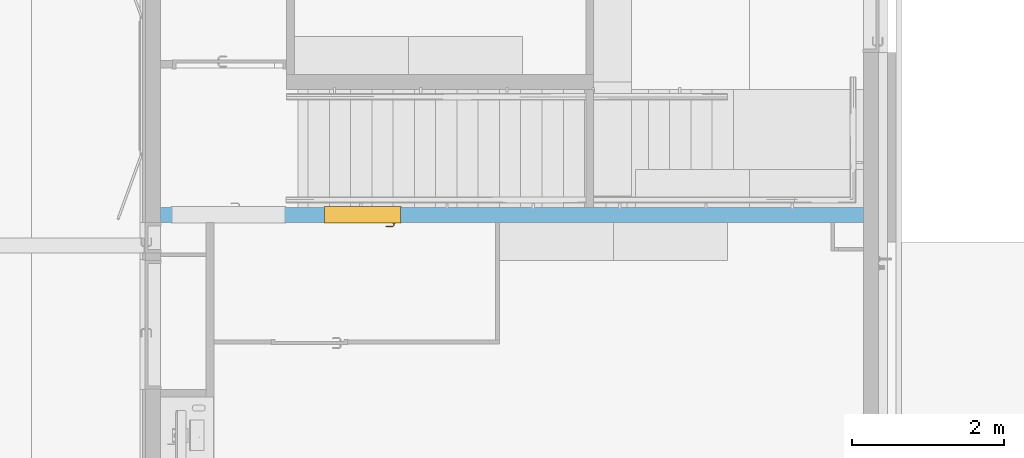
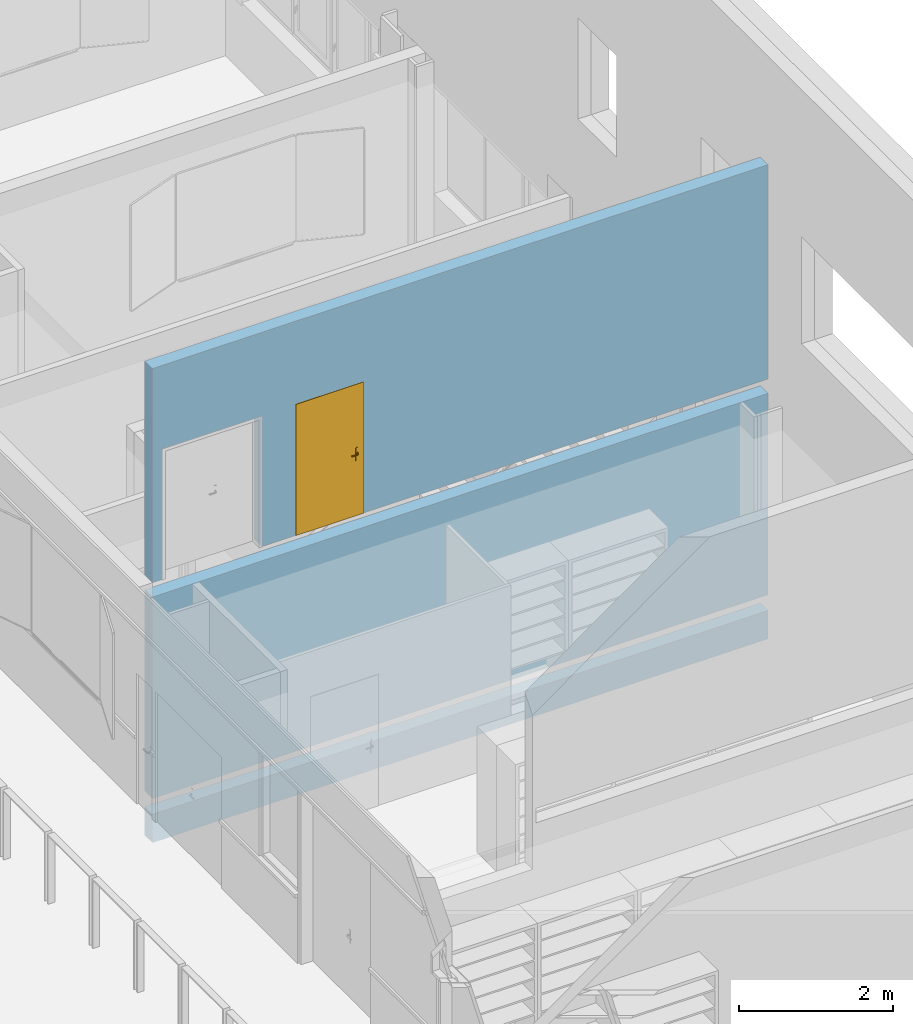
"""IFC2X3 building model written with IfcOpenShell, lengths in centimetres."""

from ifc_helpers import new_model, entity, si_unit, converted_unit, derived_unit, direction, frame, frame_2d, origin, place, context, subcontext, project, spatial, rectangle, extrude, faceted_brep, source, transform, mapped, material, material_list, layer, layer_set, type_object, type_shapes, element, fill, save


model = new_model("IFC2X3")

# Units and contexts
model_context = context("Model", 3, precision=0.001, world=origin(), true_north=direction((6.12303176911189e-17, 1.0)))
body_context = subcontext(model_context, "Body", "Model", "MODEL_VIEW")
ifc_project = project(units=[si_unit("LENGTHUNIT", "METRE", prefix="CENTI"), si_unit("AREAUNIT", "SQUARE_METRE"), si_unit("VOLUMEUNIT", "CUBIC_METRE"), converted_unit("PLANEANGLEUNIT", "DEGREE", entity("IfcRatioMeasure", 0.0174532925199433), si_unit("PLANEANGLEUNIT", "RADIAN"), dimensions=[0, 0, 0, 0, 0, 0, 0]), si_unit("MASSUNIT", "GRAM", prefix="KILO"), si_unit("TIMEUNIT", "SECOND"), si_unit("FREQUENCYUNIT", "HERTZ"), si_unit("THERMODYNAMICTEMPERATUREUNIT", "DEGREE_CELSIUS"), derived_unit("THERMALTRANSMITTANCEUNIT", [(si_unit("MASSUNIT", "GRAM", prefix="KILO"), 1), (si_unit("THERMODYNAMICTEMPERATUREUNIT", "KELVIN"), -1), (si_unit("TIMEUNIT", "SECOND"), -3)]), derived_unit("VOLUMETRICFLOWRATEUNIT", [(si_unit("LENGTHUNIT", "METRE"), 3), (si_unit("TIMEUNIT", "SECOND"), -1)]), si_unit("ELECTRICCURRENTUNIT", "AMPERE"), si_unit("ELECTRICVOLTAGEUNIT", "VOLT"), si_unit("POWERUNIT", "WATT"), si_unit("FORCEUNIT", "NEWTON", prefix="KILO"), si_unit("ILLUMINANCEUNIT", "LUX"), si_unit("LUMINOUSFLUXUNIT", "LUMEN"), si_unit("LUMINOUSINTENSITYUNIT", "CANDELA"), derived_unit("USERDEFINED", [(si_unit("MASSUNIT", "GRAM", prefix="KILO"), -1), (si_unit("LENGTHUNIT", "METRE"), -2), (si_unit("TIMEUNIT", "SECOND"), 3), (si_unit("LUMINOUSFLUXUNIT", "LUMEN"), 1)]), derived_unit("LINEARVELOCITYUNIT", [(si_unit("LENGTHUNIT", "METRE"), 1), (si_unit("TIMEUNIT", "SECOND"), -1)]), si_unit("PRESSUREUNIT", "PASCAL"), derived_unit("USERDEFINED", [(si_unit("LENGTHUNIT", "METRE"), -2), (si_unit("MASSUNIT", "GRAM", prefix="KILO"), 1), (si_unit("TIMEUNIT", "SECOND"), -2)])], contexts=[model_context])

# Site, building, storey
site_placement = place(None, frame((8.62739174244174, -249.285249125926, 0.0)))
site = spatial("IfcSite", under=ifc_project, at=site_placement, Name="Default", CompositionType="ELEMENT")
building_placement = place(site_placement, origin())
building = spatial("IfcBuilding", under=site, at=building_placement, CompositionType="ELEMENT")
storey_1_placement = place(building_placement, origin())
storey_1 = spatial("IfcBuildingStorey", under=building, at=storey_1_placement, Name="RDC", CompositionType="ELEMENT", Elevation=-8.82465566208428e-11)

# Wall, openings
ifc_material_1 = material(Name="Béton, coulé sur place, gris")
ifc_layer = layer(ifc_material_1, 20.0)
ifc_layer_set = layer_set([ifc_layer], Name="Mur de base:BET 20")
wall_type = type_object("IfcWallType", Name="Mur de base:BET 20", PredefinedType="STANDARD", material=ifc_layer_set)
wall_placement = place(storey_1_placement, frame((3053.9048277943, 4692.98020813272, -70.0)))
wall = element("IfcWall", 1, at=wall_placement, inside=storey_1, type_object=wall_type, Name="Mur de base:BET 20", ObjectType="Mur de base:BET 20", context=body_context, shape_type="Brep", body=[
    faceted_brep([(0.0, -10.0, 0.0), (925.0, -10.0, 0.0), (925.0, -10.0, 45.0), (0.0, -10.0, 45.0), (925.0, 10.0, 0.0), (0.0, 10.0, 0.0), (0.0, 10.0, 45.0), (925.0, 10.0, 45.0)], [[[0, 1, 2, 3]], [[4, 5, 6, 7]], [[1, 0, 5, 4]], [[1, 4, 7, 2]], [[5, 0, 3, 6]], [[3, 2, 7, 6]]]),
    faceted_brep([(2.05294529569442e-09, -10.0, 753.0), (166.0, -10.0, 753.0), (176.0, -10.0, 753.0), (925.0, -10.0, 753.0), (925.0, 10.0, 753.0), (176.0, 10.0, 753.0), (166.0, 10.0, 753.0), (2.40460246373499e-09, 10.0, 753.0), (2.40460246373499e-09, 10.0, 413.0), (2.05294529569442e-09, -10.0, 413.0), (2.05294529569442e-09, -10.0, 691.0), (215.999976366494, -10.0, 620.500000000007), (215.999976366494, -10.0, 413.0), (215.999976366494, 10.0, 413.0), (215.999976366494, 10.0, 620.500000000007), (315.999976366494, -10.0, 620.500000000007), (315.999976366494, 10.0, 620.500000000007), (315.999976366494, -10.0, 413.0), (315.999976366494, 10.0, 413.0), (163.999988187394, -10.0, 620.0), (163.999988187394, 10.0, 620.0), (163.999988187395, 10.0, 413.0), (163.999988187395, -10.0, 413.0), (14.9999881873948, -10.0, 620.0), (14.9999881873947, 10.0, 620.0), (14.9999881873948, -10.0, 413.0), (14.9999881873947, 10.0, 413.0), (176.0, -10.0, 413.0), (166.0, -10.0, 413.0), (166.0, 10.0, 413.0), (176.0, 10.0, 413.0), (925.0, -10.0, 413.0), (326.999976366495, 10.0, 413.0), (925.0, 10.0, 413.0), (925.0, 10.0, 521.0), (925.0, 10.0, 691.0)], [[[0, 1, 2, 3, 4, 5, 6, 7]], [[0, 7, 8, 9, 10]], [[11, 12, 13, 14]], [[15, 11, 14, 16]], [[17, 15, 16, 18]], [[19, 20, 21, 22]], [[20, 19, 23, 24]], [[24, 23, 25, 26]], [[25, 9, 8, 26]], [[12, 27, 28, 22, 21, 29, 30, 13]], [[31, 17, 18, 32, 33]], [[4, 3, 31, 33, 34, 35]], [[7, 6, 5, 4, 35, 34, 33, 32, 18, 16, 14, 13, 30, 29, 21, 20, 24, 26, 8]], [[3, 2, 1, 0, 10, 9, 25, 23, 19, 22, 28, 27, 12, 11, 15, 17, 31]]]),
    faceted_brep([(925.0, -10.0, 70.0), (0.0, -10.0, 70.0), (0.0, 10.0, 70.0), (925.0, 10.0, 70.0), (0.0, -10.0, 390.0), (925.0, -10.0, 390.0), (925.0, 10.0, 390.0), (326.999976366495, 10.0, 390.0), (0.0, 10.0, 390.0), (0.0, -10.0, 277.499999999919)], [[[0, 1, 2, 3]], [[4, 5, 6, 7, 8]], [[2, 1, 9, 4, 8]], [[0, 3, 6, 5]], [[3, 2, 8, 7, 6]], [[1, 0, 5, 4, 9]]]),
])
opening_1_placement = place(wall_placement, frame((14.999988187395, -10.0, 413.0)))
element("IfcOpeningElement", 2, at=opening_1_placement, cuts=wall, Name="Tierce(R)_bois_mu:143 x 204 cm:1", ObjectType="Opening", context=body_context, shape_type="SweptSolid", body=[
    extrude(rectangle(XDim=206.999999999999, YDim=149.0, at=frame_2d((103.499999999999, 74.4999999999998), x_axis=(1.0, 0.0))), frame((0.0, 0.0, 0.0), z_axis=(0.0, 1.0, 0.0), x_axis=(0.0, 0.0, 1.0)), (0.0, 0.0, 1.0), 20.0),
])
opening_2_placement = place(wall_placement, frame((315.999976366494, 10.0, 413.0)))
opening_2 = element("IfcOpeningElement", 3, at=opening_2_placement, cuts=wall, Name="Simple(R)_bois_mu:93 x 204 cm:1", ObjectType="Opening", context=body_context, shape_type="SweptSolid", body=[
    extrude(rectangle(XDim=207.499999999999, YDim=99.9999999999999, at=frame_2d((103.749999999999, 50.0), x_axis=(1.0, 0.0))), frame((0.0, 0.0, 0.0), z_axis=(0.0, -1.0, 0.0), x_axis=(0.0, 0.0, 1.0)), (0.0, 0.0, 1.0), 20.0),
])

# Storey
storey_2_placement = place(building_placement, frame((0.0, 0.0, 343.0)))
storey_2 = spatial("IfcBuildingStorey", under=building, at=storey_2_placement, Name="R+1", CompositionType="ELEMENT", Elevation=343.0)

# Door
ifc_material_2 = material(Name="Porte - Poignée")
ifc_material_3 = material(Name="Porte - Cadre")
ifc_material_4 = material(Name="Porte - Panneau")
ifc_material_list_1 = material_list([ifc_material_2, ifc_material_3, ifc_material_4])
ifc_material_list_2 = material_list([ifc_material_2, ifc_material_3, ifc_material_4])
door_style = type_object("IfcDoorStyle", Name="93 x 204 cm", ConstructionType="NOTDEFINED", OperationType="SINGLE_SWING_LEFT", ParameterTakesPrecedence=False, Sizeable=False, material=ifc_material_list_2)
shared_shape = source(origin(), body_context, "Body", "Brep", [
    faceted_brep([(92.2025298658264, 3.69999999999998, 100.778044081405), (91.7974701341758, 3.69999999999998, 100.778044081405), (91.3999999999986, 3.69999999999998, 100.699999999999), (91.4000000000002, 3.69999999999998, 99.3000000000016), (91.7974701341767, 3.69999999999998, 99.2219559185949), (92.2025298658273, 3.69999999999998, 99.2219559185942), (92.6000000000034, 3.69999999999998, 99.2999999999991), (92.600000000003, 3.69999999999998, 100.699999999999), (91.3999999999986, 5.94852045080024, 100.699999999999), (91.3999999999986, 5.94852045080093, 99.3000000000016), (91.7974701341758, 6.1131579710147, 100.778044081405), (92.2025298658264, 6.2809392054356, 100.778044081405), (90.5838906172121, 7.89957845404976, 100.778044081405), (90.4161093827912, 7.49451872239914, 100.778044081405), (82.0793122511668, 7.49451872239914, 100.778044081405), (81.911531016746, 7.89957845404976, 100.778044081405), (81.1451046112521, 7.13315204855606, 100.778044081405), (81.4315250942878, 6.84673156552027, 100.778044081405), (92.600000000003, 6.44557672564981, 100.699999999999), (92.6000000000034, 6.44557672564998, 99.2999999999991), (92.2025298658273, 6.28093920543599, 99.2219559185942), (91.7974701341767, 6.11315797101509, 99.2219559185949), (90.4161093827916, 7.49451872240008, 99.2219559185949), (90.5838906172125, 7.8995784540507, 99.2219559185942), (81.9115310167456, 7.8995784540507, 99.2219559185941), (82.0793122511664, 7.49451872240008, 99.2219559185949), (81.4315250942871, 6.84673156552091, 99.2219559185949), (81.1451046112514, 7.13315204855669, 99.2219559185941), (90.2514718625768, 7.09704858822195, 100.699999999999), (90.2514718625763, 7.09704858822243, 99.3000000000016), (90.7485281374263, 8.29704858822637, 100.699999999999), (90.7485281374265, 8.29704858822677, 99.2999999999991), (86.247710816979, 7.09704858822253, 100.699999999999), (82.2439497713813, 7.09704858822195, 100.699999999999), (82.2439497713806, 7.09704858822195, 99.3000000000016), (86.247710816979, 7.09704858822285, 99.3000000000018), (86.2477108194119, 7.71249275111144, 100.787811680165), (85.7399422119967, 8.29704858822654, 100.699999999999), (81.7468934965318, 8.29704858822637, 100.699999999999), (86.7554791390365, 8.29704858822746, 99.2999999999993), (81.7468934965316, 8.29704858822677, 99.2999999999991), (86.2477107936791, 7.71249274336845, 99.2121883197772), (80.8640507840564, 7.41420587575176, 100.699999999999), (80.8640507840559, 7.41420587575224, 99.2999999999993), (81.7125789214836, 6.5656777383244, 99.3000000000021), (81.7125789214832, 6.56567773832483, 100.699999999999)], [[[0, 1, 2, 3, 4, 5, 6, 7]], [[8, 9, 3, 2]], [[1, 10, 8, 2]], [[1, 0, 11, 12, 13, 10]], [[14, 15, 16, 17]], [[7, 18, 11, 0]], [[18, 7, 6, 19]], [[6, 5, 20, 19]], [[5, 4, 21, 22, 23, 20]], [[24, 25, 26, 27]], [[4, 3, 9, 21]], [[28, 29, 9, 8]], [[8, 10, 13, 28]], [[18, 30, 12, 11]], [[31, 30, 18, 19]], [[19, 20, 23, 31]], [[21, 9, 29, 22]], [[29, 28, 32, 33, 34, 35]], [[36, 32, 13]], [[37, 38, 15]], [[37, 12, 30]], [[36, 12, 37]], [[14, 32, 36]], [[36, 15, 14]], [[28, 13, 32]], [[32, 14, 33]], [[12, 36, 13]], [[15, 36, 37]], [[30, 31, 39, 40, 38, 37]], [[23, 41, 39]], [[24, 39, 41]], [[39, 31, 23]], [[39, 24, 40]], [[22, 35, 41]], [[41, 23, 22]], [[41, 35, 25]], [[35, 22, 29]], [[34, 25, 35]], [[24, 41, 25]], [[17, 16, 42, 43, 27, 26, 44, 45]], [[45, 44, 34, 33]], [[33, 14, 17, 45]], [[15, 38, 42, 16]], [[43, 42, 38, 40]], [[24, 27, 43, 40]], [[34, 44, 26, 25]]]),
    faceted_brep([(91.7974701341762, -1.30000000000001, 100.778044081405), (92.2025298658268, -1.30000000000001, 100.778044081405), (92.6000000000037, -1.30000000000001, 100.699999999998), (92.6000000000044, -1.30000000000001, 99.2999999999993), (92.2025298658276, -1.30000000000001, 99.2219559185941), (91.797470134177, -1.30000000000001, 99.2219559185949), (91.3999999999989, -1.30000000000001, 99.3000000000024), (91.3999999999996, -1.30000000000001, 100.699999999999), (92.2025298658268, -3.90045754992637, 100.778044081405), (92.6000000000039, -4.06509507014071, 100.699999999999), (91.7974701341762, -3.73267631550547, 100.778044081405), (90.4298602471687, -5.10028620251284, 100.778044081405), (90.5976414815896, -5.50534593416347, 100.778044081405), (81.9142453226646, -5.50534593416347, 100.778044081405), (82.0820265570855, -5.10028620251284, 100.778044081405), (81.4342394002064, -4.4524990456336, 100.778044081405), (81.1478189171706, -4.73891952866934, 100.778044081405), (91.3999999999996, -3.56803879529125, 100.699999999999), (91.3999999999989, -3.56803879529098, 99.3000000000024), (91.797470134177, -3.7326763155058, 99.2219559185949), (92.2025298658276, -3.9004575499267, 99.2219559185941), (90.5976414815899, -5.50534593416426, 99.2219559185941), (90.429860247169, -5.10028620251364, 99.2219559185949), (82.0820265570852, -5.10028620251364, 99.2219559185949), (81.9142453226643, -5.50534593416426, 99.2219559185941), (81.14781891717, -4.73891952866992, 99.2219559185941), (81.4342394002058, -4.45249904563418, 99.2219559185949), (92.6000000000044, -4.06509507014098, 99.2999999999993), (90.762279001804, -5.90281606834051, 100.699999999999), (90.2652227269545, -4.70281606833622, 100.699999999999), (90.2652227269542, -4.70281606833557, 99.3000000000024), (90.7622790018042, -5.90281606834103, 99.2999999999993), (86.2559433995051, -5.31828027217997, 100.787811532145), (86.769230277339, -5.90281606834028, 100.699999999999), (81.7496078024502, -5.90281606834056, 100.699999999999), (86.255943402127, -4.70281606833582, 100.699999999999), (82.2466640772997, -4.70281606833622, 100.699999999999), (86.2559436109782, -4.70281606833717, 99.3000000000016), (82.2466640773, -4.70281606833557, 99.3000000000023), (86.2559434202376, -5.31828027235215, 99.2121884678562), (85.7426572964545, -5.90281606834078, 99.2999999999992), (81.74960780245, -5.90281606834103, 99.2999999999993), (81.7152932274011, -4.17144521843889, 99.3000000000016), (80.8667650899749, -5.01997335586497, 99.2999999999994), (80.8667650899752, -5.01997335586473, 100.699999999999), (81.7152932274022, -4.17144521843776, 100.699999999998)], [[[0, 1, 2, 3, 4, 5, 6, 7]], [[2, 1, 8, 9]], [[1, 0, 10, 11, 12, 8]], [[13, 14, 15, 16]], [[0, 7, 17, 10]], [[18, 17, 7, 6]], [[5, 19, 18, 6]], [[5, 4, 20, 21, 22, 19]], [[23, 24, 25, 26]], [[3, 27, 20, 4]], [[9, 27, 3, 2]], [[9, 8, 12, 28]], [[10, 17, 29, 11]], [[30, 29, 17, 18]], [[18, 19, 22, 30]], [[20, 27, 31, 21]], [[28, 31, 27, 9]], [[12, 32, 33]], [[13, 33, 32]], [[33, 28, 12]], [[33, 13, 34]], [[11, 35, 32]], [[32, 12, 11]], [[32, 35, 14]], [[35, 11, 29]], [[36, 14, 35]], [[13, 32, 14]], [[29, 30, 37, 38, 36, 35]], [[39, 37, 22]], [[40, 41, 24]], [[40, 21, 31]], [[39, 21, 40]], [[23, 37, 39]], [[39, 24, 23]], [[30, 22, 37]], [[37, 23, 38]], [[21, 39, 22]], [[24, 39, 40]], [[31, 28, 33, 34, 41, 40]], [[42, 26, 25, 43, 44, 16, 15, 45]], [[13, 16, 44, 34]], [[36, 45, 15, 14]], [[42, 45, 36, 38]], [[38, 23, 26, 42]], [[24, 41, 43, 25]], [[44, 43, 41, 34]]]),
    faceted_brep([(92.0, 3.19999999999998, 86.4641016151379), (93.0352761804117, 3.19999999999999, 86.6003983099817), (94.0, 3.19999999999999, 87.0), (94.0, 3.19999999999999, 108.0), (93.0352761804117, 3.19999999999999, 108.399601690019), (92.0, 3.19999999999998, 108.535898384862), (90.9647238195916, 3.19999999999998, 108.399601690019), (90.0, 3.19999999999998, 108.0), (90.0, 3.19999999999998, 87.0), (90.9647238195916, 3.19999999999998, 86.6003983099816), (92.0, 3.69999999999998, 108.535898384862), (93.0352761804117, 3.69999999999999, 108.399601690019), (94.0, 3.69999999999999, 108.0), (94.0, 3.69999999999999, 87.0), (93.0352761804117, 3.69999999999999, 86.6003983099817), (92.0, 3.69999999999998, 86.4641016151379), (90.9647238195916, 3.69999999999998, 86.6003983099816), (90.0, 3.69999999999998, 87.0), (90.0, 3.69999999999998, 108.0), (90.9647238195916, 3.69999999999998, 108.399601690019)], [[[0, 1, 2, 3, 4, 5, 6, 7, 8, 9]], [[10, 11, 12, 13, 14, 15, 16, 17, 18, 19]], [[6, 19, 18, 7]], [[5, 10, 19, 6]], [[4, 11, 10, 5]], [[4, 3, 12, 11]], [[12, 3, 2, 13]], [[1, 14, 13, 2]], [[0, 15, 14, 1]], [[9, 16, 15, 0]], [[9, 8, 17, 16]], [[17, 8, 7, 18]]]),
    faceted_brep([(92.0, -1.30000000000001, 86.4641016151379), (93.0352761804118, -1.30000000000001, 86.6003983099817), (94.0, -1.30000000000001, 87.0), (94.0, -1.30000000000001, 108.0), (93.0352761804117, -1.30000000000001, 108.399601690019), (92.0, -1.30000000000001, 108.535898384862), (90.9647238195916, -1.30000000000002, 108.399601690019), (90.0, -1.30000000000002, 108.0), (90.0, -1.30000000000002, 87.0), (90.9647238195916, -1.30000000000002, 86.6003983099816), (94.0, -0.800000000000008, 108.0), (94.0, -0.800000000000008, 87.0), (93.0352761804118, -0.800000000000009, 86.6003983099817), (92.0, -0.800000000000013, 86.4641016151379), (90.9647238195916, -0.800000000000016, 86.6003983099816), (90.0, -0.800000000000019, 87.0), (90.0, -0.800000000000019, 108.0), (90.9647238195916, -0.800000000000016, 108.399601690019), (92.0, -0.800000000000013, 108.535898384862), (93.0352761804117, -0.800000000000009, 108.399601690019)], [[[0, 1, 2, 3, 4, 5, 6, 7, 8, 9]], [[10, 11, 12, 13, 14, 15, 16, 17, 18, 19]], [[1, 12, 11, 2]], [[0, 13, 12, 1]], [[9, 14, 13, 0]], [[9, 8, 15, 14]], [[15, 8, 7, 16]], [[6, 17, 16, 7]], [[5, 18, 17, 6]], [[4, 19, 18, 5]], [[4, 3, 10, 19]], [[10, 3, 2, 11]]]),
    faceted_brep([(101.0, 0.0, 0.0), (102.0, 0.0, 0.0), (102.0, -0.799999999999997, 0.0), (97.5000000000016, -0.799999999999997, 0.0), (97.5000000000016, 3.2, 0.0), (96.5000000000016, 3.2, 0.0), (96.5000000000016, 20.8000000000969, 0.0), (102.0, 20.8000000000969, 0.0), (102.0, 20.0, 0.0), (101.0, 20.0, 0.0), (101.0, 20.0, 207.499999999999), (101.0, 0.0, 207.499999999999), (102.0, 20.0, 208.499999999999), (0.0, 20.0, 208.499999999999), (0.0, 20.0, 0.0), (1.0, 20.0, 0.0), (1.0, 20.0, 207.499999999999), (102.0, 20.8000000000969, 208.499999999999), (96.5000000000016, 20.8000000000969, 203.0), (5.50000000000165, 20.8000000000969, 203.0), (5.50000000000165, 20.8000000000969, 0.0), (0.0, 20.8000000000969, 0.0), (0.0, 20.8000000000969, 208.499999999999), (96.5000000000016, 3.2, 203.0), (97.5000000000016, 3.2, 204.0), (4.50000000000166, 3.2, 204.0), (4.50000000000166, 3.2, 0.0), (5.50000000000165, 3.2, 0.0), (5.50000000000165, 3.2, 203.0), (97.5000000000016, -0.799999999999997, 204.0), (102.0, -0.799999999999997, 208.499999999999), (0.0, -0.799999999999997, 208.499999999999), (0.0, -0.799999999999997, 0.0), (4.50000000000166, -0.799999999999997, 0.0), (4.50000000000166, -0.799999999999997, 204.0), (102.0, 0.0, 208.499999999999), (1.0, 0.0, 207.499999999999), (1.0, 0.0, 0.0), (0.0, 0.0, 0.0), (0.0, 0.0, 208.499999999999)], [[[0, 1, 2, 3, 4, 5, 6, 7, 8, 9]], [[9, 10, 11, 0]], [[8, 12, 13, 14, 15, 16, 10, 9]], [[7, 17, 12, 8]], [[6, 18, 19, 20, 21, 22, 17, 7]], [[5, 23, 18, 6]], [[4, 24, 25, 26, 27, 28, 23, 5]], [[3, 29, 24, 4]], [[2, 30, 31, 32, 33, 34, 29, 3]], [[1, 35, 30, 2]], [[0, 11, 36, 37, 38, 39, 35, 1]], [[16, 15, 37, 36]], [[37, 15, 14, 21, 20, 27, 26, 33, 32, 38]], [[22, 21, 14, 13]], [[28, 27, 20, 19]], [[34, 33, 26, 25]], [[39, 38, 32, 31]], [[10, 16, 36, 11]], [[17, 22, 13, 12]], [[23, 28, 19, 18]], [[29, 34, 25, 24]], [[35, 39, 31, 30]]]),
    faceted_brep([(97.5000000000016, -0.799999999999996, 204.0), (4.50000000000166, -0.799999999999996, 204.0), (4.50000000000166, -0.799999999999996, 0.0), (97.5000000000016, -0.799999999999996, 0.0), (97.5000000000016, 3.2, 204.0), (97.5000000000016, 3.2, 0.0), (4.50000000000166, 3.2, 0.0), (4.50000000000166, 3.2, 204.0)], [[[0, 1, 2, 3]], [[4, 5, 6, 7]], [[3, 5, 4, 0]], [[2, 6, 5, 3]], [[1, 7, 6, 2]], [[0, 4, 7, 1]]]),
])
type_shapes(door_style, [shared_shape])
door_placement = place(opening_2_placement, frame((-101.0, -20.0, 0.0)))
door = element("IfcDoor", 4, at=door_placement, inside=storey_2, type_object=door_style, material=ifc_material_list_1, Name="Simple(R)_bois_mu:93 x 204 cm", ObjectType="93 x 204 cm", OverallHeight=207.499999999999, OverallWidth=99.9999999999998, context=body_context, shape_type="MappedRepresentation", body=[
    mapped(shared_shape, transform((0.0, 0.0, 0.0), scale=1.0)),
])

fill(opening_2, door)

save(model, "model.ifc")
